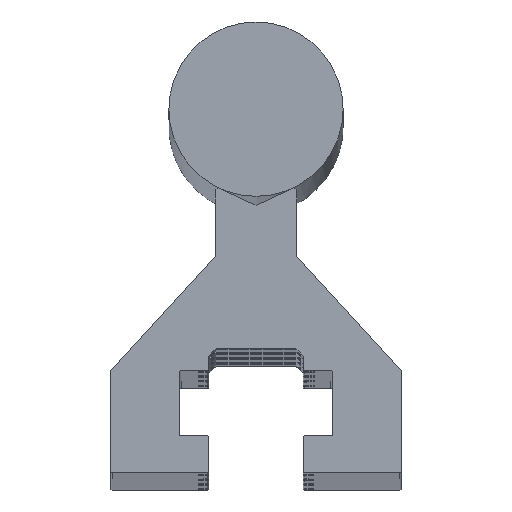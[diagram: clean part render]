
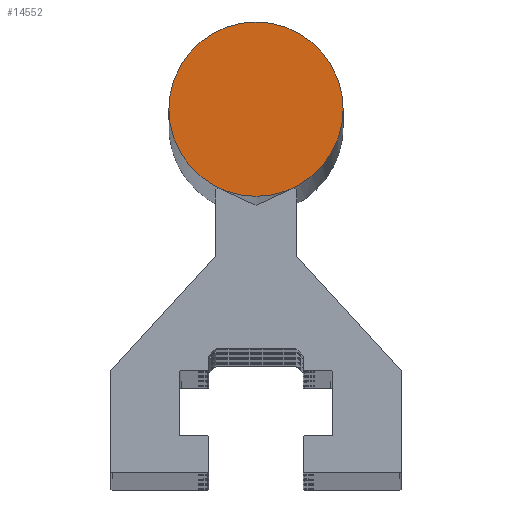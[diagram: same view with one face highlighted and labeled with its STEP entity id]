
A CAD part, top view. The second image highlights one B-rep face of the part: STEP entity #14552.
In plain terms, the highlighted planar face has unit normal (0, 0, 1).
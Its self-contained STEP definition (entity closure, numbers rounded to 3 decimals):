
#161 = VERTEX_POINT ( 'NONE', #7069 ) ;
#886 = EDGE_LOOP ( 'NONE', ( #9209 ) ) ;
#1586 = FACE_OUTER_BOUND ( 'NONE', #886, .T. ) ;
#5022 = CARTESIAN_POINT ( 'NONE',  ( 0., 25., 1. ) ) ;
#5042 = AXIS2_PLACEMENT_3D ( 'NONE', #5721, #15887, #5396 ) ;
#5333 = AXIS2_PLACEMENT_3D ( 'NONE', #5022, #5873, #5876 ) ;
#5396 = DIRECTION ( 'NONE',  ( 1., 0., 0. ) ) ;
#5429 = PLANE ( 'NONE',  #5042 ) ;
#5721 = CARTESIAN_POINT ( 'NONE',  ( 0., 25., 1. ) ) ;
#5873 = DIRECTION ( 'NONE',  ( 0., 0., 1. ) ) ;
#5876 = DIRECTION ( 'NONE',  ( 1., 0., 0. ) ) ;
#7069 = CARTESIAN_POINT ( 'NONE',  ( 6., 25., 1. ) ) ;
#9209 = ORIENTED_EDGE ( 'NONE', *, *, #14491, .T. ) ;
#11569 = CIRCLE ( 'NONE', #5333, 6. ) ;
#14491 = EDGE_CURVE ( 'NONE', #161, #161, #11569, .T. ) ;
#14552 = ADVANCED_FACE ( 'NONE', ( #1586 ), #5429, .T. ) ;
#15887 = DIRECTION ( 'NONE',  ( 0., 0., 1. ) ) ;
